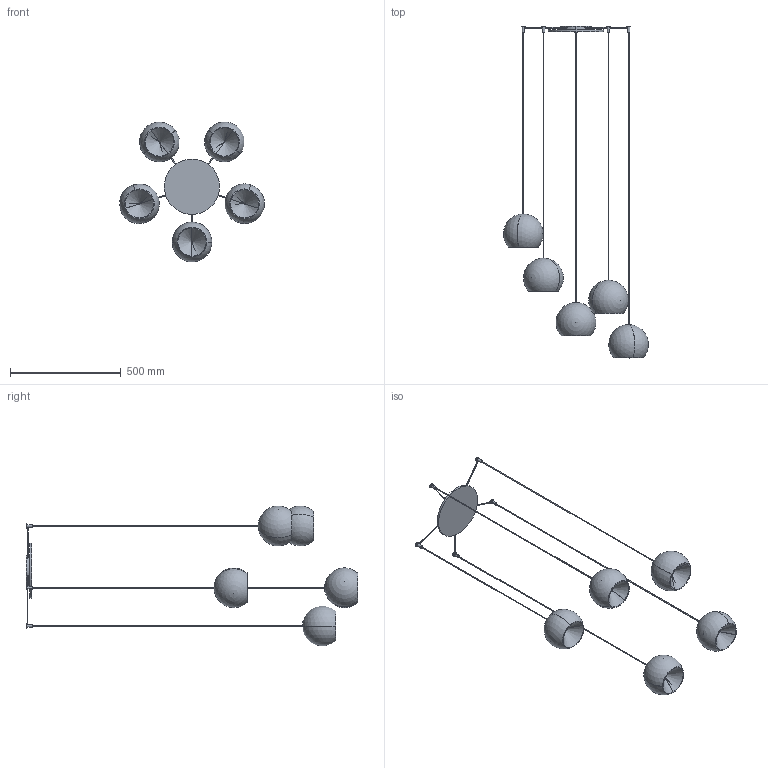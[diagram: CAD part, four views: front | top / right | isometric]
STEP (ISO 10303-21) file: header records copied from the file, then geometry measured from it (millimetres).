
FILE_DESCRIPTION (( 'STEP AP203' ), '1' );
FILE_NAME ('CHR05-00-CHERRY_5 sospensione.STEP', '2025-05-06T06:15:27', ( '' ), ( '' ), 'SwSTEP 2.0', 'SolidWorks 2022', '' );
FILE_SCHEMA (( 'CONFIG_CONTROL_DESIGN' ));
Length unit declared in the file: millimetre
Products named in the file (7): CHERRY_Lampada singola Diam.180_H=1800; CHERRY_Lampada singola Diam.180_H=2000; CHERRY_Lampada singola Diam.180_H=1500; CHERRY_Lampada singola Diam.180_H=1700; CHERRY_Lampada singola Diam.180_H=1600; CHR05-00-CHERRY_5 sospensione; CHERRY_Rosone diam.250_Cherry 5<A macchina>
Assembly tree (6 placements, depth 2):
  CHR05-00-CHERRY_5 sospensione
    CHERRY_Rosone diam.250_Cherry 5<A macchina>
    CHERRY_Lampada singola Diam.180_H=1800
    CHERRY_Lampada singola Diam.180_H=1700
    CHERRY_Lampada singola Diam.180_H=1500
    CHERRY_Lampada singola Diam.180_H=1600
    CHERRY_Lampada singola Diam.180_H=2000
Bounding box: 655.08 x 1500 x 632.1 mm (x, y, z)
Volume: 1729764.1 mm3; surface area: 1249807.9 mm2
Topology: 26 solids, 26 shells, 193 faces, 458 edges, 288 vertices
Faces by surface type: cylinder 94, plane 59, sphere 20, cone 20
Entity records: 6107 total; most frequent: CARTESIAN_POINT 1268, DIRECTION 952, ORIENTED_EDGE 776, AXIS2_PLACEMENT_3D 422, EDGE_CURVE 388, VERTEX_POINT 258, CIRCLE 220, EDGE_LOOP 214
